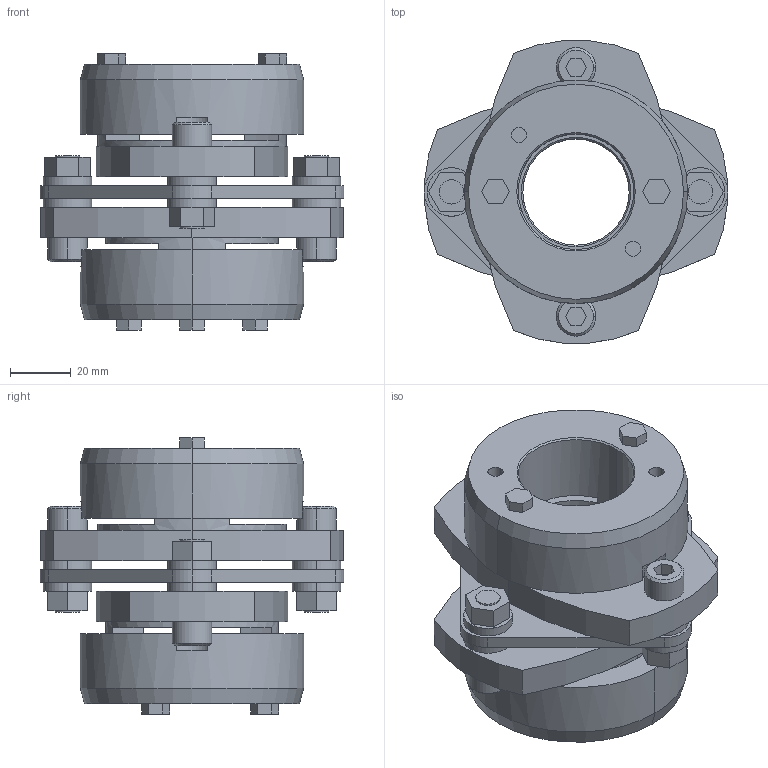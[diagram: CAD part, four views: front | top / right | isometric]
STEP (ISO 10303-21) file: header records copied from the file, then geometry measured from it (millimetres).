
FILE_DESCRIPTION((''),'2;1');
FILE_NAME('LCS-100T7-35×38.stp','2011-09-09T08:24:12',(''),(''),'AutoCAD STEP 2000i','AutoCAD 2000i',', , ');
FILE_SCHEMA(('CONFIG_CONTROL_DESIGN'));
Length unit declared in the file: millimetre
Products named in the file (10): LCS-100T7-35×38; 忣兜1; LC100T7-T038; LC100T7-T035-1; LC100T7-T035; LC100T7-T030; LC100T7-T025; LC100T7-T022-1; LC100T7-T022; LCS100-ITA
Assembly tree (9 placements, depth 2):
  LCS-100T7-35×38
    忣兜1
    LC100T7-T038
    LC100T7-T035-1
    LC100T7-T035
    LC100T7-T030
    LC100T7-T025
    LC100T7-T022-1
    LC100T7-T022
    LCS100-ITA
Bounding box: 100 x 99.93 x 91 mm (x, y, z)
Volume: 269931.2 mm3; surface area: 66472.1 mm2
Topology: 1 solids, 1 shells, 233 faces, 574 edges, 376 vertices
Faces by surface type: plane 129, cylinder 84, cone 20
Entity records: 7177 total; most frequent: DIRECTION 1272, CARTESIAN_POINT 1193, ORIENTED_EDGE 1148, EDGE_CURVE 574, AXIS2_PLACEMENT_3D 455, VERTEX_POINT 376, VECTOR 362, LINE 362
